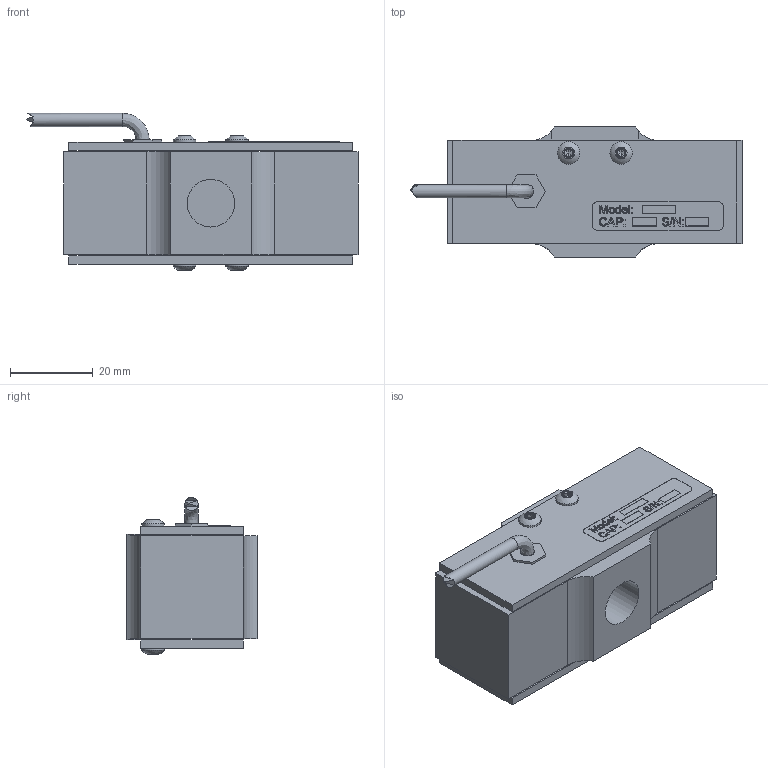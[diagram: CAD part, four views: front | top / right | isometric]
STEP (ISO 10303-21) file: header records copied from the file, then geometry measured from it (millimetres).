
FILE_DESCRIPTION (( 'STEP AP214' ), '1' );
FILE_NAME ('81147.STEP', '2016-11-07T19:41:12', ( '' ), ( '' ), 'SwSTEP 2.0', 'SolidWorks 2016', '' );
FILE_SCHEMA (( 'AUTOMOTIVE_DESIGN' ));
Length unit declared in the file: inch
Products named in the file (1): 81147
Bounding box: 80.24 x 31.5 x 37.97 mm (x, y, z)
Volume: 52543.3 mm3; surface area: 20036.9 mm2
Topology: 11 solids, 11 shells, 1092 faces, 2808 edges, 1810 vertices
Faces by surface type: plane 559, bspline 198, cone 168, cylinder 163, sphere 4
Full cylindrical faces by diameter (mm): 2.261 x4, 2.387 x36, 2.845 x32, 2.946 x4, 3.175 x2, 3.454 x1, 5.41 x4, 6.985 x1, 7.137 x1, 11.509 x2
Entity records: 47951 total; most frequent: CARTESIAN_POINT 24442, ORIENTED_EDGE 5052, DIRECTION 3873, EDGE_CURVE 2526, VERTEX_POINT 1720, LINE 1593, VECTOR 1593, EDGE_LOOP 1368
